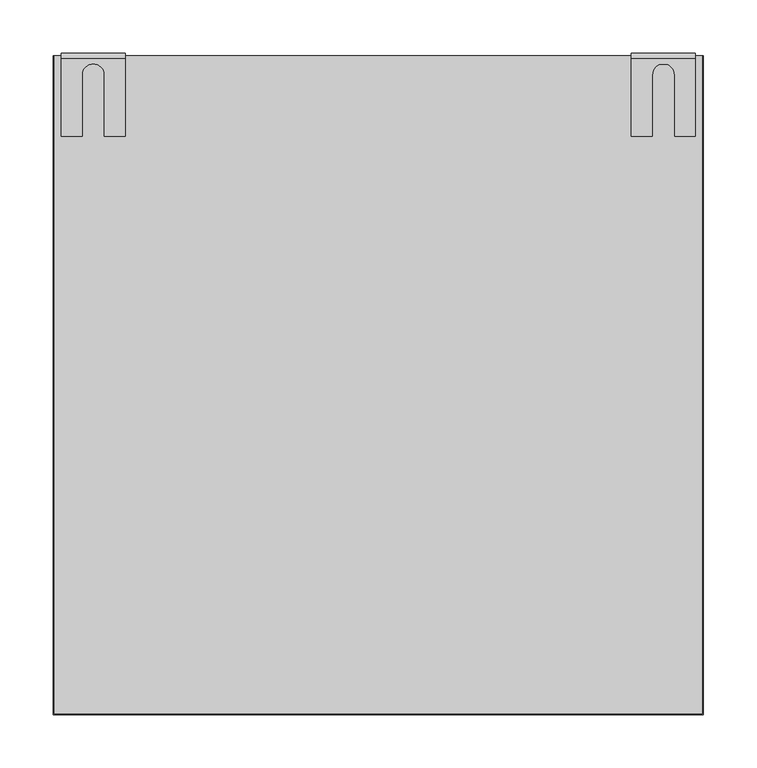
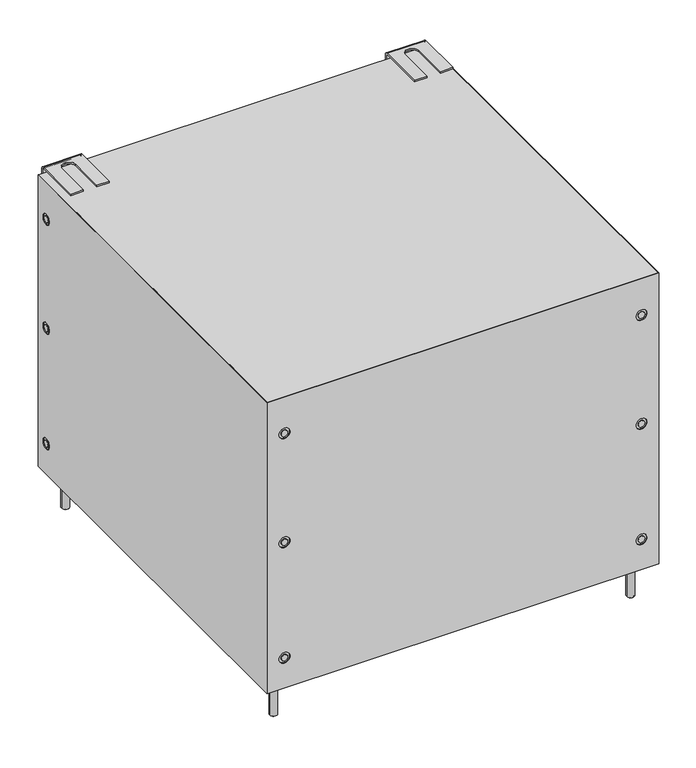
"""IFC4 building model written with IfcOpenShell, lengths in millimetres: proxy geometry, 11318830_D_APCL011_SST : 59590013_D_11318830_APCL011_SST."""

from ifc_helpers import new_model, si_unit, point, frame, frame_2d, origin, origin_with_axes, place, context, project, spatial, polyline, circle_curve, trimmed, segment, composite_curve, outline, extrude, faceted_brep, source, transform, mapped, element, save
from ifc_brep_helpers import plane_surface, cylinder_surface, revolved_surface, advanced_brep


def specialty_equipment_1de81694(model_context):
    return source(origin(), model_context, "Body", "SolidModel", [
        extrude(outline(composite_curve([segment(polyline([(-281.1685084, 596.0472117), (-277.3164745, 596.0472117), (-275.4477356, 595.7512326)]), True, "CONTINUOUS"), segment(trimmed(circle_curve(frame_2d((-276.4186229, 593.5839462)), 2.3748163), [point((-275.4477356, 595.7512326))], [point((-275.2989184, 591.4896648))], False, "CARTESIAN"), True, "CONTINUOUS"), segment(trimmed(circle_curve(frame_2d((-276.4582963, 588.9114122)), 2.8269318), [point((-275.2989184, 591.4896648))], [point((-275.7642408, 586.1710052))], False, "CARTESIAN"), True, "CONTINUOUS"), segment(polyline([(-275.7642408, 586.1710052), (-277.2676416, 586.0), (-281.1685084, 586.0), (-281.1685084, 596.0472117)]), True, "CONTINUOUS")], self_intersect=False), holes=[composite_curve([segment(polyline([(-279.913848, 594.7943432), (-279.913848, 591.9670675), (-277.6145851, 591.9670675), (-276.2782884, 592.0839783)]), True, "CONTINUOUS"), segment(trimmed(circle_curve(frame_2d((-276.5352206, 593.3816276)), 1.3228409), [point((-276.2782884, 592.0839783))], [point((-276.1776634, 594.6552291))], True, "CARTESIAN"), True, "CONTINUOUS"), segment(polyline([(-276.1776634, 594.6552291), (-277.7677441, 594.7943432), (-279.913848, 594.7943432)]), True, "CONTINUOUS")], self_intersect=False), composite_curve([segment(polyline([(-277.4580113, 590.7090207), (-279.9143742, 590.7090207), (-279.9143742, 587.2568535), (-277.3578582, 587.2568535), (-276.4244031, 587.3057738)]), True, "CONTINUOUS"), segment(trimmed(circle_curve(frame_2d((-276.5121799, 588.980655)), 1.6771797), [point((-276.4244031, 587.3057738))], [point((-275.9111324, 590.5464372))], True, "CARTESIAN"), True, "CONTINUOUS"), segment(polyline([(-275.9111324, 590.5464372), (-277.4580113, 590.7090207)]), True, "CONTINUOUS")], self_intersect=False)]), frame((0.0, 0.0, -61.0), z_axis=(0.0, 0.0, 1.0), x_axis=(1.0, 0.0, 0.0)), (0.0, 0.0, 1.0), 1.0),
        extrude(outline(composite_curve([segment(polyline([(278.1415369, 35.0472117), (280.0102757, 34.7512326)]), True, "CONTINUOUS"), segment(trimmed(circle_curve(frame_2d((279.0393885, 32.5839462)), 2.3748163), [point((280.0102757, 34.7512326))], [point((280.1590929, 30.4896648))], False, "CARTESIAN"), True, "CONTINUOUS"), segment(trimmed(circle_curve(frame_2d((278.999715, 27.9114122)), 2.8269318), [point((280.1590929, 30.4896648))], [point((279.6937705, 25.1710052))], False, "CARTESIAN"), True, "CONTINUOUS"), segment(polyline([(279.6937705, 25.1710052), (278.1903698, 25.0), (274.2895029, 25.0), (274.2895029, 35.0472117), (278.1415369, 35.0472117)]), True, "CONTINUOUS")], self_intersect=False), holes=[composite_curve([segment(polyline([(275.5441634, 30.9670675), (277.8434263, 30.9670675), (279.1797229, 31.0839783)]), True, "CONTINUOUS"), segment(trimmed(circle_curve(frame_2d((278.9227908, 32.3816276)), 1.3228409), [point((279.1797229, 31.0839783))], [point((279.2803479, 33.6552291))], True, "CARTESIAN"), True, "CONTINUOUS"), segment(polyline([(279.2803479, 33.6552291), (277.6902672, 33.7943432), (275.5441634, 33.7943432), (275.5441634, 30.9670675)]), True, "CONTINUOUS")], self_intersect=False), composite_curve([segment(polyline([(275.5436371, 29.7090207), (275.5436371, 26.2568535), (278.1001532, 26.2568535), (279.0336083, 26.3057738)]), True, "CONTINUOUS"), segment(trimmed(circle_curve(frame_2d((278.9458315, 27.980655)), 1.6771797), [point((279.0336083, 26.3057738))], [point((279.5468789, 29.5464372))], True, "CARTESIAN"), True, "CONTINUOUS"), segment(polyline([(279.5468789, 29.5464372), (278.0, 29.7090207), (275.5436371, 29.7090207)]), True, "CONTINUOUS")], self_intersect=False)]), frame((0.0, 0.0, -61.0), z_axis=(0.0, 0.0, 1.0), x_axis=(1.0, 0.0, 0.0)), (0.0, 0.0, 1.0), 1.0),
        extrude(outline(composite_curve([segment(polyline([(278.1415369, 596.0472117), (280.0102757, 595.7512326)]), True, "CONTINUOUS"), segment(trimmed(circle_curve(frame_2d((279.0393885, 593.5839462)), 2.3748163), [point((280.0102757, 595.7512326))], [point((280.1590929, 591.4896648))], False, "CARTESIAN"), True, "CONTINUOUS"), segment(trimmed(circle_curve(frame_2d((278.999715, 588.9114122)), 2.8269318), [point((280.1590929, 591.4896648))], [point((279.6937705, 586.1710052))], False, "CARTESIAN"), True, "CONTINUOUS"), segment(polyline([(279.6937705, 586.1710052), (278.1903698, 586.0), (274.2895029, 586.0), (274.2895029, 596.0472117), (278.1415369, 596.0472117)]), True, "CONTINUOUS")], self_intersect=False), holes=[composite_curve([segment(polyline([(279.2803479, 594.6552291), (277.6902672, 594.7943432), (275.5441634, 594.7943432), (275.5441634, 591.9670675), (277.8434263, 591.9670675), (279.1797229, 592.0839783)]), True, "CONTINUOUS"), segment(trimmed(circle_curve(frame_2d((278.9227908, 593.3816276)), 1.3228409), [point((279.1797229, 592.0839783))], [point((279.2803479, 594.6552291))], True, "CARTESIAN"), True, "CONTINUOUS")], self_intersect=False), composite_curve([segment(polyline([(278.0, 590.7090207), (275.5436371, 590.7090207), (275.5436371, 587.2568535), (278.1001532, 587.2568535), (279.0336083, 587.3057738)]), True, "CONTINUOUS"), segment(trimmed(circle_curve(frame_2d((278.9458315, 588.980655)), 1.6771797), [point((279.0336083, 587.3057738))], [point((279.5468789, 590.5464372))], True, "CARTESIAN"), True, "CONTINUOUS"), segment(polyline([(279.5468789, 590.5464372), (278.0, 590.7090207)]), True, "CONTINUOUS")], self_intersect=False)]), frame((0.0, 0.0, -61.0), z_axis=(0.0, 0.0, 1.0), x_axis=(1.0, 0.0, 0.0)), (0.0, 0.0, 1.0), 1.0),
        extrude(outline(composite_curve([segment(polyline([(-277.4419527, 35.0472117), (-275.5732138, 34.7512326)]), True, "CONTINUOUS"), segment(trimmed(circle_curve(frame_2d((-276.544101, 32.5839462)), 2.3748163), [point((-275.5732138, 34.7512326))], [point((-275.4243966, 30.4896648))], False, "CARTESIAN"), True, "CONTINUOUS"), segment(trimmed(circle_curve(frame_2d((-276.5837745, 27.9114122)), 2.8269318), [point((-275.4243966, 30.4896648))], [point((-275.889719, 25.1710052))], False, "CARTESIAN"), True, "CONTINUOUS"), segment(polyline([(-275.889719, 25.1710052), (-277.3931197, 25.0), (-281.2939866, 25.0), (-281.2939866, 35.0472117), (-277.4419527, 35.0472117)]), True, "CONTINUOUS")], self_intersect=False), holes=[composite_curve([segment(polyline([(-280.0393261, 33.7943432), (-280.0393261, 30.9670675), (-277.7400632, 30.9670675), (-276.4037666, 31.0839783)]), True, "CONTINUOUS"), segment(trimmed(circle_curve(frame_2d((-276.6606988, 32.3816276)), 1.3228409), [point((-276.4037666, 31.0839783))], [point((-276.3031416, 33.6552291))], True, "CARTESIAN"), True, "CONTINUOUS"), segment(polyline([(-276.3031416, 33.6552291), (-277.8932223, 33.7943432), (-280.0393261, 33.7943432)]), True, "CONTINUOUS")], self_intersect=False), composite_curve([segment(polyline([(-280.0398524, 26.2568535), (-277.4833364, 26.2568535), (-276.5498812, 26.3057738)]), True, "CONTINUOUS"), segment(trimmed(circle_curve(frame_2d((-276.637658, 27.980655)), 1.6771797), [point((-276.5498812, 26.3057738))], [point((-276.0366106, 29.5464372))], True, "CARTESIAN"), True, "CONTINUOUS"), segment(polyline([(-276.0366106, 29.5464372), (-277.5834895, 29.7090207), (-280.0398524, 29.7090207), (-280.0398524, 26.2568535)]), True, "CONTINUOUS")], self_intersect=False)]), frame((0.0, 0.0, -61.0), z_axis=(0.0, 0.0, 1.0), x_axis=(1.0, 0.0, 0.0)), (0.0, 0.0, 1.0), 1.0),
        extrude(outline(composite_curve([segment(trimmed(circle_curve(frame_2d((596.0, 240.0)), 5.0), [point((596.0, 235.0))], [point((596.0, 245.0))], False, "CARTESIAN"), True, "CONTINUOUS"), segment(trimmed(circle_curve(frame_2d((596.0, 240.0)), 5.0), [point((596.0, 245.0))], [point((596.0, 235.0))], False, "CARTESIAN"), True, "CONTINUOUS")], self_intersect=False)), frame((-305.0, 0.0, 0.0), z_axis=(1.0, 0.0, 0.0), x_axis=(0.0, 1.0, 0.0)), (0.0, 0.0, 1.0), 1.0),
        extrude(outline(composite_curve([segment(trimmed(circle_curve(frame_2d((596.0, 240.0)), 5.0), [point((596.0, 235.0))], [point((596.0, 245.0))], False, "CARTESIAN"), True, "CONTINUOUS"), segment(trimmed(circle_curve(frame_2d((596.0, 240.0)), 5.0), [point((596.0, 245.0))], [point((596.0, 235.0))], False, "CARTESIAN"), True, "CONTINUOUS")], self_intersect=False)), frame((304.0, 0.0, 0.0), z_axis=(1.0, 0.0, 0.0), x_axis=(0.0, 1.0, 0.0)), (0.0, 0.0, 1.0), 1.0),
        extrude(outline(composite_curve([segment(trimmed(circle_curve(frame_2d((240.0, -278.0)), 5.0), [point((240.0, -273.0))], [point((240.0, -283.0))], False, "CARTESIAN"), True, "CONTINUOUS"), segment(trimmed(circle_curve(frame_2d((240.0, -278.0)), 5.0), [point((240.0, -283.0))], [point((240.0, -273.0))], False, "CARTESIAN"), True, "CONTINUOUS")], self_intersect=False)), frame((0.0, 0.0, 0.0), z_axis=(0.0, 1.0, 0.0), x_axis=(0.0, 0.0, 1.0)), (0.0, 0.0, 1.0), 1.0),
        extrude(outline(composite_curve([segment(trimmed(circle_curve(frame_2d((240.0, 278.0)), 5.0), [point((240.0, 283.0))], [point((240.0, 273.0))], False, "CARTESIAN"), True, "CONTINUOUS"), segment(trimmed(circle_curve(frame_2d((240.0, 278.0)), 5.0), [point((240.0, 273.0))], [point((240.0, 283.0))], False, "CARTESIAN"), True, "CONTINUOUS")], self_intersect=False)), frame((0.0, 0.0, 0.0), z_axis=(0.0, 1.0, 0.0), x_axis=(0.0, 0.0, 1.0)), (0.0, 0.0, 1.0), 1.0),
        extrude(outline(composite_curve([segment(trimmed(circle_curve(frame_2d((596.0, 419.0)), 5.0), [point((596.0, 414.0))], [point((596.0, 424.0))], False, "CARTESIAN"), True, "CONTINUOUS"), segment(trimmed(circle_curve(frame_2d((596.0, 419.0)), 5.0), [point((596.0, 424.0))], [point((596.0, 414.0))], False, "CARTESIAN"), True, "CONTINUOUS")], self_intersect=False)), frame((-305.0, 0.0, 0.0), z_axis=(1.0, 0.0, 0.0), x_axis=(0.0, 1.0, 0.0)), (0.0, 0.0, 1.0), 1.0),
        extrude(outline(composite_curve([segment(trimmed(circle_curve(frame_2d((596.0, 419.0)), 5.0), [point((596.0, 414.0))], [point((596.0, 424.0))], False, "CARTESIAN"), True, "CONTINUOUS"), segment(trimmed(circle_curve(frame_2d((596.0, 419.0)), 5.0), [point((596.0, 424.0))], [point((596.0, 414.0))], False, "CARTESIAN"), True, "CONTINUOUS")], self_intersect=False)), frame((304.0, 0.0, 0.0), z_axis=(1.0, 0.0, 0.0), x_axis=(0.0, 1.0, 0.0)), (0.0, 0.0, 1.0), 1.0),
        extrude(outline(composite_curve([segment(trimmed(circle_curve(frame_2d((419.0, -278.0)), 5.0), [point((419.0, -273.0))], [point((419.0, -283.0))], False, "CARTESIAN"), True, "CONTINUOUS"), segment(trimmed(circle_curve(frame_2d((419.0, -278.0)), 5.0), [point((419.0, -283.0))], [point((419.0, -273.0))], False, "CARTESIAN"), True, "CONTINUOUS")], self_intersect=False)), frame((0.0, 0.0, 0.0), z_axis=(0.0, 1.0, 0.0), x_axis=(0.0, 0.0, 1.0)), (0.0, 0.0, 1.0), 1.0),
        extrude(outline(composite_curve([segment(trimmed(circle_curve(frame_2d((419.0, 278.0)), 5.0), [point((419.0, 283.0))], [point((419.0, 273.0))], False, "CARTESIAN"), True, "CONTINUOUS"), segment(trimmed(circle_curve(frame_2d((419.0, 278.0)), 5.0), [point((419.0, 273.0))], [point((419.0, 283.0))], False, "CARTESIAN"), True, "CONTINUOUS")], self_intersect=False)), frame((0.0, 0.0, 0.0), z_axis=(0.0, 1.0, 0.0), x_axis=(0.0, 0.0, 1.0)), (0.0, 0.0, 1.0), 1.0),
        extrude(outline(composite_curve([segment(trimmed(circle_curve(frame_2d((596.0, 50.0)), 5.0), [point((596.0, 45.0))], [point((596.0, 55.0))], False, "CARTESIAN"), True, "CONTINUOUS"), segment(trimmed(circle_curve(frame_2d((596.0, 50.0)), 5.0), [point((596.0, 55.0))], [point((596.0, 45.0))], False, "CARTESIAN"), True, "CONTINUOUS")], self_intersect=False)), frame((-305.0, 0.0, 0.0), z_axis=(1.0, 0.0, 0.0), x_axis=(0.0, 1.0, 0.0)), (0.0, 0.0, 1.0), 1.0),
        extrude(outline(composite_curve([segment(trimmed(circle_curve(frame_2d((596.0, 50.0)), 5.0), [point((596.0, 45.0))], [point((596.0, 55.0))], False, "CARTESIAN"), True, "CONTINUOUS"), segment(trimmed(circle_curve(frame_2d((596.0, 50.0)), 5.0), [point((596.0, 55.0))], [point((596.0, 45.0))], False, "CARTESIAN"), True, "CONTINUOUS")], self_intersect=False)), frame((304.0, 0.0, 0.0), z_axis=(1.0, 0.0, 0.0), x_axis=(0.0, 1.0, 0.0)), (0.0, 0.0, 1.0), 1.0),
        extrude(outline(composite_curve([segment(trimmed(circle_curve(frame_2d((50.0, -278.0)), 5.0), [point((50.0, -273.0))], [point((50.0, -283.0))], False, "CARTESIAN"), True, "CONTINUOUS"), segment(trimmed(circle_curve(frame_2d((50.0, -278.0)), 5.0), [point((50.0, -283.0))], [point((50.0, -273.0))], False, "CARTESIAN"), True, "CONTINUOUS")], self_intersect=False)), frame((0.0, 0.0, 0.0), z_axis=(0.0, 1.0, 0.0), x_axis=(0.0, 0.0, 1.0)), (0.0, 0.0, 1.0), 1.0),
        extrude(outline(composite_curve([segment(trimmed(circle_curve(frame_2d((50.0, 278.0)), 5.0), [point((50.0, 283.0))], [point((50.0, 273.0))], False, "CARTESIAN"), True, "CONTINUOUS"), segment(trimmed(circle_curve(frame_2d((50.0, 278.0)), 5.0), [point((50.0, 273.0))], [point((50.0, 283.0))], False, "CARTESIAN"), True, "CONTINUOUS")], self_intersect=False)), frame((0.0, 0.0, 0.0), z_axis=(0.0, 1.0, 0.0), x_axis=(0.0, 0.0, 1.0)), (0.0, 0.0, 1.0), 1.0),
        faceted_brep([(304.0, 618.0, 479.0), (-304.0, 618.0, 479.0), (-304.0, 1.0, 479.0), (304.0, 1.0, 479.0), (304.0, 618.0, 434.0), (304.0, 1.0, 434.0), (-304.0, 1.0, 434.0), (-304.0, 618.0, 434.0), (302.0, 616.0, 434.0), (-302.0, 616.0, 434.0), (-302.0, 3.0, 434.0), (302.0, 3.0, 434.0), (302.0, 616.0, 477.0), (302.0, 3.0, 477.0), (-302.0, 3.0, 477.0), (-302.0, 616.0, 477.0)], [[[0, 1, 2, 3]], [[4, 5, 6, 7], [8, 9, 10, 11]], [[1, 0, 4, 7]], [[2, 1, 7, 6]], [[3, 2, 6, 5]], [[0, 3, 5, 4]], [[12, 13, 14, 15]], [[12, 15, 9, 8]], [[15, 14, 10, 9]], [[14, 13, 11, 10]], [[13, 12, 8, 11]]]),
        advanced_brep(
        [(-305.0, 618.0, 479.0), (-305.0, 0.0, 479.0), (305.0, 0.0, 479.0), (305.0, 618.0, 479.0), (304.0, 618.0, 479.0), (304.0, 1.0, 479.0), (-304.0, 1.0, 479.0), (-304.0, 618.0, 479.0), (305.0, 618.0, 0.0), (305.0, 0.0, 0.0), (-305.0, 0.0, 0.0), (-305.0, 618.0, 0.0), (-304.0, 618.0, 0.0), (-304.0, 1.0, 0.0), (304.0, 1.0, 0.0), (304.0, 618.0, 0.0), (-305.0, 596.0, 41.5), (-305.0, 596.0, 58.5), (-305.0, 596.0, 410.5), (-305.0, 596.0, 427.5), (-305.0, 596.0, 231.5), (-305.0, 596.0, 248.5), (-269.5, 0.0, 419.0), (-286.5, 0.0, 419.0), (286.5, 0.0, 419.0), (269.5, 0.0, 419.0), (-269.5, 0.0, 240.0), (-286.5, 0.0, 240.0), (286.5, 0.0, 240.0), (269.5, 0.0, 240.0), (-269.5, 0.0, 50.0), (-286.5, 0.0, 50.0), (286.5, 0.0, 50.0), (269.5, 0.0, 50.0), (305.0, 596.0, 427.5), (305.0, 596.0, 410.5), (305.0, 596.0, 248.5), (305.0, 596.0, 231.5), (305.0, 596.0, 58.5), (305.0, 596.0, 41.5), (-304.0, 596.0, 58.5), (-304.0, 596.0, 41.5), (-304.0, 596.0, 427.5), (-304.0, 596.0, 410.5), (-304.0, 596.0, 248.5), (-304.0, 596.0, 231.5), (-286.5, 1.0, 419.0), (-269.5, 1.0, 419.0), (269.5, 1.0, 419.0), (286.5, 1.0, 419.0), (-286.5, 1.0, 240.0), (-269.5, 1.0, 240.0), (269.5, 1.0, 240.0), (286.5, 1.0, 240.0), (-286.5, 1.0, 50.0), (-269.5, 1.0, 50.0), (269.5, 1.0, 50.0), (286.5, 1.0, 50.0), (304.0, 596.0, 410.5), (304.0, 596.0, 427.5), (304.0, 596.0, 231.5), (304.0, 596.0, 248.5), (304.0, 596.0, 41.5), (304.0, 596.0, 58.5)],
        [
            (0, 1),
            (1, 2),
            (2, 3),
            (3, 4),
            (4, 5),
            (5, 6),
            (6, 7),
            (7, 0),
            (8, 9),
            (9, 10),
            (10, 11),
            (11, 12),
            (12, 13),
            (13, 14),
            (14, 15),
            (15, 8),
            (3, 8),
            (15, 4),
            (11, 0),
            (7, 12),
            (10, 1),
            (16, 17, circle_curve(frame((-305.0, 596.0, 50.0), z_axis=(1.0, 0.0, 0.0), x_axis=(0.0, 0.0, 1.0)), 8.5)),
            (17, 16, circle_curve(frame((-305.0, 596.0, 50.0), z_axis=(1.0, 0.0, 0.0), x_axis=(0.0, 0.0, 1.0)), 8.5)),
            (18, 19, circle_curve(frame((-305.0, 596.0, 419.0), z_axis=(1.0, 0.0, 0.0), x_axis=(0.0, 0.0, 1.0)), 8.5)),
            (19, 18, circle_curve(frame((-305.0, 596.0, 419.0), z_axis=(1.0, 0.0, 0.0), x_axis=(0.0, 0.0, 1.0)), 8.5)),
            (20, 21, circle_curve(frame((-305.0, 596.0, 240.0), z_axis=(1.0, 0.0, 0.0), x_axis=(0.0, 0.0, 1.0)), 8.5)),
            (21, 20, circle_curve(frame((-305.0, 596.0, 240.0), z_axis=(1.0, 0.0, 0.0), x_axis=(0.0, 0.0, 1.0)), 8.5)),
            (9, 2),
            (22, 23, circle_curve(frame((-278.0, 0.0, 419.0), z_axis=(0.0, 1.0, 0.0), x_axis=(-1.0, 0.0, 0.0)), 8.5)),
            (23, 22, circle_curve(frame((-278.0, 0.0, 419.0), z_axis=(0.0, 1.0, 0.0), x_axis=(-1.0, 0.0, 0.0)), 8.5)),
            (24, 25, circle_curve(frame((278.0, 0.0, 419.0), z_axis=(0.0, 1.0, 0.0), x_axis=(-1.0, 0.0, 0.0)), 8.5)),
            (25, 24, circle_curve(frame((278.0, 0.0, 419.0), z_axis=(0.0, 1.0, 0.0), x_axis=(-1.0, 0.0, 0.0)), 8.5)),
            (26, 27, circle_curve(frame((-278.0, 0.0, 240.0), z_axis=(0.0, 1.0, 0.0), x_axis=(-1.0, 0.0, 0.0)), 8.5)),
            (27, 26, circle_curve(frame((-278.0, 0.0, 240.0), z_axis=(0.0, 1.0, 0.0), x_axis=(-1.0, 0.0, 0.0)), 8.5)),
            (28, 29, circle_curve(frame((278.0, 0.0, 240.0), z_axis=(0.0, 1.0, 0.0), x_axis=(-1.0, 0.0, 0.0)), 8.5)),
            (29, 28, circle_curve(frame((278.0, 0.0, 240.0), z_axis=(0.0, 1.0, 0.0), x_axis=(-1.0, 0.0, 0.0)), 8.5)),
            (30, 31, circle_curve(frame((-278.0, 0.0, 50.0), z_axis=(0.0, 1.0, 0.0), x_axis=(-1.0, 0.0, 0.0)), 8.5)),
            (31, 30, circle_curve(frame((-278.0, 0.0, 50.0), z_axis=(0.0, 1.0, 0.0), x_axis=(-1.0, 0.0, 0.0)), 8.5)),
            (32, 33, circle_curve(frame((278.0, 0.0, 50.0), z_axis=(0.0, 1.0, 0.0), x_axis=(-1.0, 0.0, 0.0)), 8.5)),
            (33, 32, circle_curve(frame((278.0, 0.0, 50.0), z_axis=(0.0, 1.0, 0.0), x_axis=(-1.0, 0.0, 0.0)), 8.5)),
            (34, 35, circle_curve(frame((305.0, 596.0, 419.0), z_axis=(-1.0, 0.0, 0.0), x_axis=(0.0, 0.0, 1.0)), 8.5)),
            (35, 34, circle_curve(frame((305.0, 596.0, 419.0), z_axis=(-1.0, 0.0, 0.0), x_axis=(0.0, 0.0, 1.0)), 8.5)),
            (36, 37, circle_curve(frame((305.0, 596.0, 240.0), z_axis=(-1.0, 0.0, 0.0), x_axis=(0.0, 0.0, 1.0)), 8.5)),
            (37, 36, circle_curve(frame((305.0, 596.0, 240.0), z_axis=(-1.0, 0.0, 0.0), x_axis=(0.0, 0.0, 1.0)), 8.5)),
            (38, 39, circle_curve(frame((305.0, 596.0, 50.0), z_axis=(-1.0, 0.0, 0.0), x_axis=(0.0, 0.0, 1.0)), 8.5)),
            (39, 38, circle_curve(frame((305.0, 596.0, 50.0), z_axis=(-1.0, 0.0, 0.0), x_axis=(0.0, 0.0, 1.0)), 8.5)),
            (6, 13),
            (40, 41, circle_curve(frame((-304.0, 596.0, 50.0), z_axis=(-1.0, 0.0, 0.0), x_axis=(0.0, 0.0, 1.0)), 8.5)),
            (41, 40, circle_curve(frame((-304.0, 596.0, 50.0), z_axis=(-1.0, 0.0, 0.0), x_axis=(0.0, 0.0, 1.0)), 8.5)),
            (42, 43, circle_curve(frame((-304.0, 596.0, 419.0), z_axis=(-1.0, 0.0, 0.0), x_axis=(0.0, 0.0, 1.0)), 8.5)),
            (43, 42, circle_curve(frame((-304.0, 596.0, 419.0), z_axis=(-1.0, 0.0, 0.0), x_axis=(0.0, 0.0, 1.0)), 8.5)),
            (44, 45, circle_curve(frame((-304.0, 596.0, 240.0), z_axis=(-1.0, 0.0, 0.0), x_axis=(0.0, 0.0, 1.0)), 8.5)),
            (45, 44, circle_curve(frame((-304.0, 596.0, 240.0), z_axis=(-1.0, 0.0, 0.0), x_axis=(0.0, 0.0, 1.0)), 8.5)),
            (5, 14),
            (46, 47, circle_curve(frame((-278.0, 1.0, 419.0), z_axis=(0.0, -1.0, 0.0), x_axis=(-1.0, 0.0, 0.0)), 8.5)),
            (47, 46, circle_curve(frame((-278.0, 1.0, 419.0), z_axis=(0.0, -1.0, 0.0), x_axis=(-1.0, 0.0, 0.0)), 8.5)),
            (48, 49, circle_curve(frame((278.0, 1.0, 419.0), z_axis=(0.0, -1.0, 0.0), x_axis=(-1.0, 0.0, 0.0)), 8.5)),
            (49, 48, circle_curve(frame((278.0, 1.0, 419.0), z_axis=(0.0, -1.0, 0.0), x_axis=(-1.0, 0.0, 0.0)), 8.5)),
            (50, 51, circle_curve(frame((-278.0, 1.0, 240.0), z_axis=(0.0, -1.0, 0.0), x_axis=(-1.0, 0.0, 0.0)), 8.5)),
            (51, 50, circle_curve(frame((-278.0, 1.0, 240.0), z_axis=(0.0, -1.0, 0.0), x_axis=(-1.0, 0.0, 0.0)), 8.5)),
            (52, 53, circle_curve(frame((278.0, 1.0, 240.0), z_axis=(0.0, -1.0, 0.0), x_axis=(-1.0, 0.0, 0.0)), 8.5)),
            (53, 52, circle_curve(frame((278.0, 1.0, 240.0), z_axis=(0.0, -1.0, 0.0), x_axis=(-1.0, 0.0, 0.0)), 8.5)),
            (54, 55, circle_curve(frame((-278.0, 1.0, 50.0), z_axis=(0.0, -1.0, 0.0), x_axis=(-1.0, 0.0, 0.0)), 8.5)),
            (55, 54, circle_curve(frame((-278.0, 1.0, 50.0), z_axis=(0.0, -1.0, 0.0), x_axis=(-1.0, 0.0, 0.0)), 8.5)),
            (56, 57, circle_curve(frame((278.0, 1.0, 50.0), z_axis=(0.0, -1.0, 0.0), x_axis=(-1.0, 0.0, 0.0)), 8.5)),
            (57, 56, circle_curve(frame((278.0, 1.0, 50.0), z_axis=(0.0, -1.0, 0.0), x_axis=(-1.0, 0.0, 0.0)), 8.5)),
            (58, 59, circle_curve(frame((304.0, 596.0, 419.0), z_axis=(1.0, 0.0, 0.0), x_axis=(0.0, 0.0, 1.0)), 8.5)),
            (59, 58, circle_curve(frame((304.0, 596.0, 419.0), z_axis=(1.0, 0.0, 0.0), x_axis=(0.0, 0.0, 1.0)), 8.5)),
            (60, 61, circle_curve(frame((304.0, 596.0, 240.0), z_axis=(1.0, 0.0, 0.0), x_axis=(0.0, 0.0, 1.0)), 8.5)),
            (61, 60, circle_curve(frame((304.0, 596.0, 240.0), z_axis=(1.0, 0.0, 0.0), x_axis=(0.0, 0.0, 1.0)), 8.5)),
            (62, 63, circle_curve(frame((304.0, 596.0, 50.0), z_axis=(1.0, 0.0, 0.0), x_axis=(0.0, 0.0, 1.0)), 8.5)),
            (63, 62, circle_curve(frame((304.0, 596.0, 50.0), z_axis=(1.0, 0.0, 0.0), x_axis=(0.0, 0.0, 1.0)), 8.5)),
            (46, 23),
            (22, 47),
            (48, 25),
            (24, 49),
            (50, 27),
            (26, 51),
            (52, 29),
            (28, 53),
            (34, 59),
            (58, 35),
            (36, 61),
            (60, 37),
            (40, 17),
            (16, 41),
            (42, 19),
            (18, 43),
            (54, 31),
            (30, 55),
            (56, 33),
            (32, 57),
            (38, 63),
            (62, 39),
            (44, 21),
            (20, 45),
        ],
        [
            plane_surface(frame((-305.0, 618.0, 479.0), z_axis=(0.0, 0.0, 1.0), x_axis=(-1.0, 0.0, 0.0))),
            plane_surface(frame((-305.0, 618.0, 0.0), z_axis=(0.0, 0.0, -1.0), x_axis=(1.0, 0.0, 0.0))),
            plane_surface(frame((305.0, 618.0, 479.0), z_axis=(0.0, 1.0, 0.0), x_axis=(0.0, 0.0, -1.0))),
            plane_surface(frame((-305.0, 618.0, 479.0), z_axis=(-1.0, 0.0, 0.0), x_axis=(0.0, 0.0, -1.0))),
            plane_surface(frame((-305.0, 0.0, 479.0), z_axis=(0.0, -1.0, 0.0), x_axis=(0.0, 0.0, -1.0))),
            plane_surface(frame((305.0, 0.0, 479.0), z_axis=(1.0, 0.0, 0.0), x_axis=(0.0, 0.0, -1.0))),
            plane_surface(frame((-304.0, 618.0, 479.0), z_axis=(1.0, 0.0, 0.0), x_axis=(0.0, 0.0, -1.0))),
            plane_surface(frame((-304.0, 1.0, 479.0), z_axis=(0.0, 1.0, 0.0), x_axis=(0.0, 0.0, -1.0))),
            plane_surface(frame((304.0, 1.0, 479.0), z_axis=(-1.0, 0.0, 0.0), x_axis=(0.0, 0.0, -1.0))),
            revolved_surface(polyline([(-286.5, 1.0, 419.0), (-286.5, 0.0, 419.0)]), (-278.0, 0.0, 419.0), (0.0, 1.0, 0.0)),
            revolved_surface(polyline([(269.5, 1.0, 419.0), (269.5, 0.0, 419.0)]), (278.0, 0.0, 419.0), (0.0, 1.0, 0.0)),
            revolved_surface(polyline([(-286.5, 1.0, 240.0), (-286.5, 0.0, 240.0)]), (-278.0, 0.0, 240.0), (0.0, 1.0, 0.0)),
            revolved_surface(polyline([(269.5, 1.0, 240.0), (269.5, 0.0, 240.0)]), (278.0, 0.0, 240.0), (0.0, 1.0, 0.0)),
            revolved_surface(polyline([(305.0, 596.0, 427.5), (304.0, 596.0, 427.5)]), (304.0, 596.0, 419.0), (1.0, 0.0, 0.0)),
            revolved_surface(polyline([(305.0, 596.0, 248.5), (304.0, 596.0, 248.5)]), (304.0, 596.0, 240.0), (1.0, 0.0, 0.0)),
            revolved_surface(polyline([(-304.0, 596.0, 58.5), (-305.0, 596.0, 58.5)]), (-305.0, 596.0, 50.0), (1.0, 0.0, 0.0)),
            revolved_surface(polyline([(-304.0, 596.0, 427.5), (-305.0, 596.0, 427.5)]), (-305.0, 596.0, 419.0), (1.0, 0.0, 0.0)),
            revolved_surface(polyline([(-286.5, 1.0, 50.0), (-286.5, 0.0, 50.0)]), (-278.0, 0.0, 50.0), (0.0, 1.0, 0.0)),
            revolved_surface(polyline([(269.5, 1.0, 50.0), (269.5, 0.0, 50.0)]), (278.0, 0.0, 50.0), (0.0, 1.0, 0.0)),
            revolved_surface(polyline([(305.0, 596.0, 58.5), (304.0, 596.0, 58.5)]), (304.0, 596.0, 50.0), (1.0, 0.0, 0.0)),
            revolved_surface(polyline([(-304.0, 596.0, 248.5), (-305.0, 596.0, 248.5)]), (-305.0, 596.0, 240.0), (1.0, 0.0, 0.0)),
        ],
        [
            (0, [[1, 2, 3, 4, 5, 6, 7, 8]]),
            (1, [[9, 10, 11, 12, 13, 14, 15, 16]]),
            (2, [[17, -16, 18, -4]]),
            (2, [[19, -8, 20, -12]]),
            (3, [[-1, -19, -11, 21], [22, 23], [24, 25], [26, 27]]),
            (4, [[-2, -21, -10, 28], [29, 30], [31, 32], [33, 34], [35, 36], [37, 38], [39, 40]]),
            (5, [[-3, -28, -9, -17], [41, 42], [43, 44], [45, 46]]),
            (6, [[47, -13, -20, -7], [48, 49], [50, 51], [52, 53]]),
            (7, [[-47, -6, 54, -14], [55, 56], [57, 58], [59, 60], [61, 62], [63, 64], [65, 66]]),
            (8, [[-54, -5, -18, -15], [67, 68], [69, 70], [71, 72]]),
            (9, [[73, -29, 74, -55]]),
            (9, [[-73, -56, -74, -30]]),
            (10, [[75, -31, 76, -57]]),
            (10, [[-75, -58, -76, -32]]),
            (11, [[77, -33, 78, -59]]),
            (11, [[-77, -60, -78, -34]]),
            (12, [[79, -35, 80, -61]]),
            (12, [[-79, -62, -80, -36]]),
            (13, [[81, -67, 82, -41]]),
            (13, [[-81, -42, -82, -68]]),
            (14, [[83, -69, 84, -43]]),
            (14, [[-83, -44, -84, -70]]),
            (15, [[85, -22, 86, -48]]),
            (15, [[-85, -49, -86, -23]]),
            (16, [[87, -24, 88, -50]]),
            (16, [[-87, -51, -88, -25]]),
            (17, [[89, -37, 90, -63]]),
            (17, [[-89, -64, -90, -38]]),
            (18, [[91, -39, 92, -65]]),
            (18, [[-91, -66, -92, -40]]),
            (19, [[93, -71, 94, -45]]),
            (19, [[-93, -46, -94, -72]]),
            (20, [[95, -26, 96, -52]]),
            (20, [[-95, -53, -96, -27]]),
        ],
    ),
        advanced_brep(
        [(297.5, 615.5, 490.5), (297.5, 542.5, 490.5), (297.5, 542.5, 488.0), (297.5, 615.5, 488.0), (297.5, 618.0, 485.5), (297.5, 618.0, 408.0), (297.5, 620.5, 408.0), (297.5, 620.5, 485.5), (237.5, 615.5, 490.5), (237.5, 620.5, 485.5), (237.5, 620.5, 408.0), (237.5, 618.0, 408.0), (237.5, 618.0, 485.5), (237.5, 615.5, 488.0), (237.5, 542.5, 488.0), (237.5, 542.5, 490.5), (257.0, 542.5, 490.5), (257.0, 600.0, 490.5), (278.0, 600.0, 490.5), (278.0, 542.5, 490.5), (278.0, 542.5, 488.0), (257.0, 542.5, 488.0), (278.0, 600.0, 488.0), (257.0, 600.0, 488.0), (267.5, 618.0, 466.5), (267.5, 618.0, 459.5), (267.5, 618.0, 424.5), (267.5, 618.0, 417.5), (255.0, 618.0, 456.0), (280.0, 618.0, 456.0), (280.0, 618.0, 431.0), (255.0, 618.0, 431.0), (267.5, 620.5, 459.5), (267.5, 620.5, 466.5), (267.5, 620.5, 417.5), (267.5, 620.5, 424.5), (280.0, 620.5, 456.0), (255.0, 620.5, 456.0), (255.0, 620.5, 431.0), (280.0, 620.5, 431.0)],
        [
            (0, 1),
            (1, 2),
            (2, 3),
            (3, 4, circle_curve(frame((297.5, 615.5, 485.5), z_axis=(-1.0, 0.0, 0.0), x_axis=(0.0, 1.0, 0.0)), 2.5)),
            (4, 5),
            (5, 6),
            (6, 7),
            (7, 0, circle_curve(frame((297.5, 615.5, 485.5), z_axis=(1.0, 0.0, 0.0), x_axis=(0.0, 1.0, 0.0)), 5.0)),
            (8, 9, circle_curve(frame((237.5, 615.5, 485.5), z_axis=(-1.0, 0.0, 0.0), x_axis=(0.0, 1.0, 0.0)), 5.0)),
            (9, 10),
            (10, 11),
            (11, 12),
            (12, 13, circle_curve(frame((237.5, 615.5, 485.5), z_axis=(1.0, 0.0, 0.0), x_axis=(0.0, 1.0, 0.0)), 2.5)),
            (13, 14),
            (14, 15),
            (15, 8),
            (0, 8),
            (15, 16),
            (16, 17),
            (17, 18, circle_curve(frame((267.5, 600.0, 490.5), z_axis=(0.0, 0.0, -1.0), x_axis=(0.0, 1.0, 0.0)), 10.5)),
            (18, 19),
            (19, 1),
            (19, 20),
            (20, 2),
            (14, 21),
            (21, 16),
            (20, 22),
            (22, 23, circle_curve(frame((267.5, 600.0, 488.0), z_axis=(0.0, 0.0, 1.0), x_axis=(0.0, 1.0, 0.0)), 10.5)),
            (23, 21),
            (13, 3),
            (4, 12),
            (11, 5),
            (24, 25, circle_curve(frame((267.5, 618.0, 463.0), z_axis=(0.0, 1.0, 0.0), x_axis=(0.0, 0.0, -1.0)), 3.5)),
            (25, 24, circle_curve(frame((267.5, 618.0, 463.0), z_axis=(0.0, 1.0, 0.0), x_axis=(0.0, 0.0, -1.0)), 3.5)),
            (26, 27, circle_curve(frame((267.5, 618.0, 421.0), z_axis=(0.0, 1.0, 0.0), x_axis=(0.0, 0.0, -1.0)), 3.5)),
            (27, 26, circle_curve(frame((267.5, 618.0, 421.0), z_axis=(0.0, 1.0, 0.0), x_axis=(0.0, 0.0, -1.0)), 3.5)),
            (28, 29),
            (29, 30),
            (30, 31),
            (31, 28),
            (10, 6),
            (9, 7),
            (32, 33, circle_curve(frame((267.5, 620.5, 463.0), z_axis=(0.0, -1.0, 0.0), x_axis=(0.0, 0.0, -1.0)), 3.5)),
            (33, 32, circle_curve(frame((267.5, 620.5, 463.0), z_axis=(0.0, -1.0, 0.0), x_axis=(0.0, 0.0, -1.0)), 3.5)),
            (34, 35, circle_curve(frame((267.5, 620.5, 421.0), z_axis=(0.0, -1.0, 0.0), x_axis=(0.0, 0.0, -1.0)), 3.5)),
            (35, 34, circle_curve(frame((267.5, 620.5, 421.0), z_axis=(0.0, -1.0, 0.0), x_axis=(0.0, 0.0, -1.0)), 3.5)),
            (36, 37),
            (37, 38),
            (38, 39),
            (39, 36),
            (18, 22),
            (17, 23),
            (24, 33),
            (32, 25),
            (26, 35),
            (34, 27),
            (28, 37),
            (36, 29),
            (39, 30),
            (38, 31),
        ],
        [
            plane_surface(frame((297.5, 542.5, 490.5), z_axis=(1.0, 0.0, 0.0), x_axis=(0.0, -1.0, 0.0))),
            plane_surface(frame((237.5, 542.5, 490.5), z_axis=(-1.0, 0.0, 0.0), x_axis=(0.0, 1.0, 0.0))),
            plane_surface(frame((297.5, 615.5, 490.5), z_axis=(0.0, 0.0, 1.0), x_axis=(-1.0, 0.0, 0.0))),
            plane_surface(frame((297.5, 542.5, 490.5), z_axis=(0.0, -1.0, 0.0), x_axis=(-1.0, 0.0, 0.0))),
            plane_surface(frame((297.5, 542.5, 488.0), z_axis=(0.0, 0.0, -1.0), x_axis=(-1.0, 0.0, 0.0))),
            plane_surface(frame((297.5, 618.0, 485.5), z_axis=(0.0, -1.0, 0.0), x_axis=(-1.0, 0.0, 0.0))),
            plane_surface(frame((297.5, 618.0, 408.0), z_axis=(0.0, 0.0, -1.0), x_axis=(-1.0, 0.0, 0.0))),
            plane_surface(frame((297.5, 620.5, 408.0), z_axis=(0.0, 1.0, 0.0), x_axis=(-1.0, 0.0, 0.0))),
            plane_surface(frame((278.0, 542.5, 490.5), z_axis=(-1.0, 0.0, 0.0), x_axis=(0.0, 0.0, -1.0))),
            revolved_surface(polyline([(267.5, 610.5, 490.5), (267.5, 610.5, 488.0)]), (267.5, 600.0, 479.0), (0.0, 0.0, 1.0)),
            plane_surface(frame((257.0, 600.0, 490.5), z_axis=(1.0, 0.0, 0.0), x_axis=(0.0, 0.0, -1.0))),
            revolved_surface(polyline([(267.5, 620.5, 459.5), (267.5, 618.0, 459.5)]), (267.5, 612.795944, 463.0), (0.0, 1.0, 0.0)),
            revolved_surface(polyline([(267.5, 620.5, 417.5), (267.5, 618.0, 417.5)]), (267.5, 620.5, 421.0), (0.0, 1.0, 0.0)),
            plane_surface(frame((255.0, 620.5, 456.0), z_axis=(0.0, 0.0, -1.0), x_axis=(0.0, -1.0, 0.0))),
            plane_surface(frame((280.0, 620.5, 456.0), z_axis=(-1.0, 0.0, 0.0), x_axis=(0.0, -1.0, 0.0))),
            plane_surface(frame((280.0, 620.5, 431.0), z_axis=(0.0, 0.0, 1.0), x_axis=(0.0, -1.0, 0.0))),
            plane_surface(frame((255.0, 620.5, 431.0), z_axis=(1.0, 0.0, 0.0), x_axis=(0.0, -1.0, 0.0))),
            revolved_surface(polyline([(237.5, 618.0, 485.5), (297.5, 618.0, 485.5)]), (237.5, 615.5, 485.5), (-1.0, 0.0, 0.0)),
            cylinder_surface(frame((237.5, 615.5, 485.5), z_axis=(1.0, 0.0, 0.0), x_axis=(0.0, 1.0, 0.0)), 5.0),
        ],
        [
            (0, [[1, 2, 3, 4, 5, 6, 7, 8]]),
            (1, [[9, 10, 11, 12, 13, 14, 15, 16]]),
            (2, [[-1, 17, -16, 18, 19, 20, 21, 22]]),
            (3, [[-2, -22, 23, 24]]),
            (3, [[-15, 25, 26, -18]]),
            (4, [[-3, -24, 27, 28, 29, -25, -14, 30]]),
            (5, [[-5, 31, -12, 32], [33, 34], [35, 36], [37, 38, 39, 40]]),
            (6, [[-6, -32, -11, 41]]),
            (7, [[-7, -41, -10, 42], [43, 44], [45, 46], [47, 48, 49, 50]]),
            (8, [[51, -27, -23, -21]]),
            (9, [[-51, -20, 52, -28]]),
            (10, [[-52, -19, -26, -29]]),
            (11, [[53, -43, 54, -33]]),
            (11, [[-53, -34, -54, -44]]),
            (12, [[55, -45, 56, -35]]),
            (12, [[-55, -36, -56, -46]]),
            (13, [[57, -47, 58, -37]]),
            (14, [[-58, -50, 59, -38]]),
            (15, [[-59, -49, 60, -39]]),
            (16, [[-57, -40, -60, -48]]),
            (17, [[-4, -30, -13, -31]]),
            (18, [[-8, -42, -9, -17]]),
        ],
    ),
        advanced_brep(
        [(-237.5, 620.5, 485.5), (-237.5, 615.5, 490.5), (-237.5, 542.5, 490.5), (-237.5, 542.5, 488.0), (-237.5, 615.5, 488.0), (-237.5, 618.0, 485.5), (-237.5, 618.0, 408.0), (-237.5, 620.5, 408.0), (-297.5, 620.5, 485.5), (-297.5, 620.5, 408.0), (-297.5, 618.0, 408.0), (-297.5, 618.0, 485.5), (-297.5, 615.5, 488.0), (-297.5, 542.5, 488.0), (-297.5, 542.5, 490.5), (-297.5, 615.5, 490.5), (-278.0, 542.5, 490.5), (-278.0, 600.0, 490.5), (-267.5, 610.5, 490.5), (-257.0, 600.0, 490.5), (-257.0, 542.5, 490.5), (-257.0, 542.5, 488.0), (-278.0, 542.5, 488.0), (-257.0, 600.0, 488.0), (-267.5, 610.5, 488.0), (-278.0, 600.0, 488.0), (-255.0, 618.0, 456.0), (-255.0, 618.0, 431.0), (-280.0, 618.0, 431.0), (-280.0, 618.0, 456.0), (-267.5, 618.0, 424.5), (-267.5, 618.0, 417.5), (-267.5, 618.0, 466.5), (-267.5, 618.0, 459.5), (-255.0, 620.5, 431.0), (-255.0, 620.5, 456.0), (-280.0, 620.5, 456.0), (-280.0, 620.5, 431.0), (-267.5, 620.5, 417.5), (-267.5, 620.5, 424.5), (-267.5, 620.5, 459.5), (-267.5, 620.5, 466.5)],
        [
            (0, 1, circle_curve(frame((-237.5, 615.5, 485.5), z_axis=(1.0, 0.0, 0.0), x_axis=(0.0, 1.0, 0.0)), 5.0)),
            (1, 2),
            (2, 3),
            (3, 4),
            (4, 5, circle_curve(frame((-237.5, 615.5, 485.5), z_axis=(-1.0, 0.0, 0.0), x_axis=(0.0, 1.0, 0.0)), 2.5)),
            (5, 6),
            (6, 7),
            (7, 0),
            (8, 9),
            (9, 10),
            (10, 11),
            (11, 12, circle_curve(frame((-297.5, 615.5, 485.5), z_axis=(1.0, 0.0, 0.0), x_axis=(0.0, 1.0, 0.0)), 2.5)),
            (12, 13),
            (13, 14),
            (14, 15),
            (15, 8, circle_curve(frame((-297.5, 615.5, 485.5), z_axis=(-1.0, 0.0, 0.0), x_axis=(0.0, 1.0, 0.0)), 5.0)),
            (1, 15),
            (14, 16),
            (16, 17),
            (17, 18, circle_curve(frame((-267.5, 600.0, 490.5), z_axis=(0.0, 0.0, -1.0), x_axis=(0.0, -1.0, 0.0)), 10.5)),
            (18, 19, circle_curve(frame((-267.5, 600.0, 490.5), z_axis=(0.0, 0.0, -1.0), x_axis=(0.0, -1.0, 0.0)), 10.5)),
            (19, 20),
            (20, 2),
            (20, 21),
            (21, 3),
            (13, 22),
            (22, 16),
            (21, 23),
            (23, 24, circle_curve(frame((-267.5, 600.0, 488.0), z_axis=(0.0, 0.0, 1.0), x_axis=(0.0, -1.0, 0.0)), 10.5)),
            (24, 25, circle_curve(frame((-267.5, 600.0, 488.0), z_axis=(0.0, 0.0, 1.0), x_axis=(0.0, -1.0, 0.0)), 10.5)),
            (25, 22),
            (12, 4),
            (5, 11),
            (10, 6),
            (26, 27),
            (27, 28),
            (28, 29),
            (29, 26),
            (30, 31, circle_curve(frame((-267.5, 618.0, 421.0), z_axis=(0.0, 1.0, 0.0), x_axis=(0.0, 0.0, -1.0)), 3.5)),
            (31, 30, circle_curve(frame((-267.5, 618.0, 421.0), z_axis=(0.0, 1.0, 0.0), x_axis=(0.0, 0.0, -1.0)), 3.5)),
            (32, 33, circle_curve(frame((-267.5, 618.0, 463.0), z_axis=(0.0, 1.0, 0.0), x_axis=(0.0, 0.0, -1.0)), 3.5)),
            (33, 32, circle_curve(frame((-267.5, 618.0, 463.0), z_axis=(0.0, 1.0, 0.0), x_axis=(0.0, 0.0, -1.0)), 3.5)),
            (9, 7),
            (8, 0),
            (34, 35),
            (35, 36),
            (36, 37),
            (37, 34),
            (38, 39, circle_curve(frame((-267.5, 620.5, 421.0), z_axis=(0.0, -1.0, 0.0), x_axis=(0.0, 0.0, -1.0)), 3.5)),
            (39, 38, circle_curve(frame((-267.5, 620.5, 421.0), z_axis=(0.0, -1.0, 0.0), x_axis=(0.0, 0.0, -1.0)), 3.5)),
            (40, 41, circle_curve(frame((-267.5, 620.5, 463.0), z_axis=(0.0, -1.0, 0.0), x_axis=(0.0, 0.0, -1.0)), 3.5)),
            (41, 40, circle_curve(frame((-267.5, 620.5, 463.0), z_axis=(0.0, -1.0, 0.0), x_axis=(0.0, 0.0, -1.0)), 3.5)),
            (24, 18),
            (17, 25),
            (19, 23),
            (26, 35),
            (34, 27),
            (37, 28),
            (36, 29),
            (30, 39),
            (38, 31),
            (32, 41),
            (40, 33),
        ],
        [
            plane_surface(frame((-237.5, 620.5, 485.5), z_axis=(1.0, 0.0, 0.0), x_axis=(0.0, 0.0, 1.0))),
            plane_surface(frame((-297.5, 620.5, 485.5), z_axis=(-1.0, 0.0, 0.0), x_axis=(0.0, 0.0, -1.0))),
            plane_surface(frame((-237.5, 615.5, 490.5), z_axis=(0.0, 0.0, 1.0), x_axis=(-1.0, 0.0, 0.0))),
            plane_surface(frame((-237.5, 542.5, 490.5), z_axis=(0.0, -1.0, 0.0), x_axis=(-1.0, 0.0, 0.0))),
            plane_surface(frame((-237.5, 542.5, 488.0), z_axis=(0.0, 0.0, -1.0), x_axis=(-1.0, 0.0, 0.0))),
            plane_surface(frame((-237.5, 618.0, 485.5), z_axis=(0.0, -1.0, 0.0), x_axis=(-1.0, 0.0, 0.0))),
            plane_surface(frame((-237.5, 618.0, 408.0), z_axis=(0.0, 0.0, -1.0), x_axis=(-1.0, 0.0, 0.0))),
            plane_surface(frame((-237.5, 620.5, 408.0), z_axis=(0.0, 1.0, 0.0), x_axis=(-1.0, 0.0, 0.0))),
            revolved_surface(polyline([(-267.5, 589.5, 490.5), (-267.5, 589.5, 488.0)]), (-267.5, 600.0, 479.0), (0.0, 0.0, 1.0)),
            plane_surface(frame((-278.0, 600.0, 490.5), z_axis=(1.0, 0.0, 0.0), x_axis=(0.0, 0.0, -1.0))),
            plane_surface(frame((-257.0, 542.5, 490.5), z_axis=(-1.0, 0.0, 0.0), x_axis=(0.0, 0.0, -1.0))),
            cylinder_surface(frame((-297.5, 615.5, 485.5), z_axis=(1.0, 0.0, 0.0), x_axis=(0.0, 1.0, 0.0)), 5.0),
            revolved_surface(polyline([(-297.5, 618.0, 485.5), (-237.5, 618.0, 485.5)]), (-297.5, 615.5, 485.5), (-1.0, 0.0, 0.0)),
            plane_surface(frame((-255.0, 620.5, 456.0), z_axis=(-1.0, 0.0, 0.0), x_axis=(0.0, -1.0, 0.0))),
            plane_surface(frame((-255.0, 620.5, 431.0), z_axis=(0.0, 0.0, 1.0), x_axis=(0.0, -1.0, 0.0))),
            plane_surface(frame((-280.0, 620.5, 431.0), z_axis=(1.0, 0.0, 0.0), x_axis=(0.0, -1.0, 0.0))),
            plane_surface(frame((-280.0, 620.5, 456.0), z_axis=(0.0, 0.0, -1.0), x_axis=(0.0, -1.0, 0.0))),
            revolved_surface(polyline([(-267.5, 620.5, 417.5), (-267.5, 618.0, 417.5)]), (-267.5, 620.5, 421.0), (0.0, 1.0, 0.0)),
            revolved_surface(polyline([(-267.5, 620.5, 459.5), (-267.5, 618.0, 459.5)]), (-267.5, 620.5, 463.0), (0.0, 1.0, 0.0)),
        ],
        [
            (0, [[1, 2, 3, 4, 5, 6, 7, 8]]),
            (1, [[9, 10, 11, 12, 13, 14, 15, 16]]),
            (2, [[-2, 17, -15, 18, 19, 20, 21, 22, 23]]),
            (3, [[-3, -23, 24, 25]]),
            (3, [[-14, 26, 27, -18]]),
            (4, [[-4, -25, 28, 29, 30, 31, -26, -13, 32]]),
            (5, [[-6, 33, -11, 34], [35, 36, 37, 38], [39, 40], [41, 42]]),
            (6, [[-7, -34, -10, 43]]),
            (7, [[-8, -43, -9, 44], [45, 46, 47, 48], [49, 50], [51, 52]]),
            (8, [[53, -20, 54, -30]]),
            (9, [[-54, -19, -27, -31]]),
            (10, [[55, -28, -24, -22]]),
            (8, [[-53, -29, -55, -21]]),
            (11, [[-1, -44, -16, -17]]),
            (12, [[-5, -32, -12, -33]]),
            (13, [[56, -45, 57, -35]]),
            (14, [[-57, -48, 58, -36]]),
            (15, [[-58, -47, 59, -37]]),
            (16, [[-56, -38, -59, -46]]),
            (17, [[60, -49, 61, -39]]),
            (17, [[-60, -40, -61, -50]]),
            (18, [[62, -51, 63, -41]]),
            (18, [[-62, -42, -63, -52]]),
        ],
    ),
        extrude(outline(composite_curve([segment(trimmed(circle_curve(frame_2d((-278.0, 591.0)), 6.0), [point((-272.0, 591.0))], [point((-284.0, 591.0))], False, "CARTESIAN"), True, "CONTINUOUS"), segment(trimmed(circle_curve(frame_2d((-278.0, 591.0)), 6.0), [point((-284.0, 591.0))], [point((-272.0, 591.0))], False, "CARTESIAN"), True, "CONTINUOUS")], self_intersect=False)), frame((0.0, 0.0, -60.0), z_axis=(0.0, 0.0, 1.0), x_axis=(1.0, 0.0, 0.0)), (0.0, 0.0, 1.0), 60.0),
        extrude(outline(composite_curve([segment(trimmed(circle_curve(frame_2d((-278.0, 30.0)), 6.0), [point((-272.0, 30.0))], [point((-284.0, 30.0))], False, "CARTESIAN"), True, "CONTINUOUS"), segment(trimmed(circle_curve(frame_2d((-278.0, 30.0)), 6.0), [point((-284.0, 30.0))], [point((-272.0, 30.0))], False, "CARTESIAN"), True, "CONTINUOUS")], self_intersect=False)), frame((0.0, 0.0, -60.0), z_axis=(0.0, 0.0, 1.0), x_axis=(1.0, 0.0, 0.0)), (0.0, 0.0, 1.0), 60.0),
        extrude(outline(composite_curve([segment(trimmed(circle_curve(frame_2d((278.0, 30.0)), 6.0), [point((284.0, 30.0))], [point((272.0, 30.0))], False, "CARTESIAN"), True, "CONTINUOUS"), segment(trimmed(circle_curve(frame_2d((278.0, 30.0)), 6.0), [point((272.0, 30.0))], [point((284.0, 30.0))], False, "CARTESIAN"), True, "CONTINUOUS")], self_intersect=False)), frame((0.0, 0.0, -60.0), z_axis=(0.0, 0.0, 1.0), x_axis=(1.0, 0.0, 0.0)), (0.0, 0.0, 1.0), 60.0),
        extrude(outline(composite_curve([segment(trimmed(circle_curve(frame_2d((278.0, 591.0)), 6.0), [point((284.0, 591.0))], [point((272.0, 591.0))], False, "CARTESIAN"), True, "CONTINUOUS"), segment(trimmed(circle_curve(frame_2d((278.0, 591.0)), 6.0), [point((272.0, 591.0))], [point((284.0, 591.0))], False, "CARTESIAN"), True, "CONTINUOUS")], self_intersect=False)), frame((0.0, 0.0, -60.0), z_axis=(0.0, 0.0, 1.0), x_axis=(1.0, 0.0, 0.0)), (0.0, 0.0, 1.0), 60.0),
        faceted_brep([(302.0, 616.0, 220.0), (-302.0, 616.0, 220.0), (-302.0, 3.0, 220.0), (302.0, 3.0, 220.0), (302.0, 616.0, 185.0), (302.0, 3.0, 185.0), (-302.0, 3.0, 185.0), (-302.0, 616.0, 185.0), (301.0, 615.0, 185.0), (-301.0, 615.0, 185.0), (-301.0, 4.0, 185.0), (301.0, 4.0, 185.0), (301.0, 615.0, 219.0), (301.0, 4.0, 219.0), (-301.0, 4.0, 219.0), (-301.0, 615.0, 219.0)], [[[0, 1, 2, 3]], [[4, 5, 6, 7], [8, 9, 10, 11]], [[1, 0, 4, 7]], [[2, 1, 7, 6]], [[3, 2, 6, 5]], [[0, 3, 5, 4]], [[12, 13, 14, 15]], [[12, 15, 9, 8]], [[15, 14, 10, 9]], [[14, 13, 11, 10]], [[13, 12, 8, 11]]]),
        extrude(outline(polyline([(-252.0, 616.0), (-252.0, 565.0), (-302.0, 565.0), (-302.0, 616.0), (-252.0, 616.0)])), origin_with_axes(), (0.0, 0.0, 1.0), 2.0),
        extrude(outline(polyline([(252.0, 616.0), (302.0, 616.0), (302.0, 565.0), (252.0, 565.0), (252.0, 616.0)])), origin_with_axes(), (0.0, 0.0, 1.0), 2.0),
        extrude(outline(polyline([(-252.0, 53.0), (-252.0, 3.0), (-302.0, 3.0), (-302.0, 53.0), (-252.0, 53.0)])), origin_with_axes(), (0.0, 0.0, 1.0), 2.0),
        extrude(outline(polyline([(252.0, 53.0), (302.0, 53.0), (302.0, 3.0), (252.0, 3.0), (252.0, 53.0)])), origin_with_axes(), (0.0, 0.0, 1.0), 2.0),
        faceted_brep([(-178.0, 3.0, 434.0), (-302.0, 3.0, 434.0), (-302.0, 127.0, 434.0), (-304.0, 127.0, 434.0), (-304.0, 1.0, 434.0), (-178.0, 1.0, 434.0), (-252.0, 1.0, 0.0), (-304.0, 1.0, 0.0), (-304.0, 53.0, 0.0), (-302.0, 53.0, 0.0), (-302.0, 3.0, 0.0), (-252.0, 3.0, 0.0)], [[[0, 1, 2, 3, 4, 5]], [[6, 7, 8, 9, 10, 11]], [[1, 0, 11, 10]], [[2, 1, 10, 9]], [[4, 3, 8, 7]], [[5, 4, 7, 6]], [[0, 5, 6, 11]], [[3, 2, 9, 8]]]),
        faceted_brep([(-304.0, 591.0, 434.0), (-302.0, 591.0, 434.0), (-302.0, 616.0, 434.0), (-178.0, 616.0, 434.0), (-178.0, 618.0, 434.0), (-304.0, 618.0, 434.0), (-304.0, 591.0, 0.0), (-304.0, 618.0, 0.0), (-252.0, 618.0, 0.0), (-252.0, 616.0, 0.0), (-302.0, 616.0, 0.0), (-302.0, 591.0, 0.0)], [[[0, 1, 2, 3, 4, 5]], [[6, 7, 8, 9, 10, 11]], [[1, 0, 6, 11]], [[2, 1, 11, 10]], [[3, 2, 10, 9]], [[5, 4, 8, 7]], [[0, 5, 7, 6]], [[4, 3, 9, 8]]]),
        faceted_brep([(178.0, 616.0, 434.0), (302.0, 616.0, 434.0), (302.0, 591.0, 434.0), (304.0, 591.0, 434.0), (304.0, 618.0, 434.0), (178.0, 618.0, 434.0), (304.0, 618.0, 0.0), (304.0, 591.0, 0.0), (302.0, 591.0, 0.0), (302.0, 616.0, 0.0), (252.0, 616.0, 0.0), (252.0, 618.0, 0.0)], [[[0, 1, 2, 3, 4, 5]], [[6, 7, 8, 9, 10, 11]], [[1, 0, 10, 9]], [[2, 1, 9, 8]], [[3, 2, 8, 7]], [[4, 3, 7, 6]], [[5, 4, 6, 11]], [[0, 5, 11, 10]]]),
        faceted_brep([(302.0, 127.0, 434.0), (302.0, 3.0, 434.0), (178.0, 3.0, 434.0), (178.0, 1.0, 434.0), (304.0, 1.0, 434.0), (304.0, 127.0, 434.0), (304.0, 1.0, 0.0), (252.0, 1.0, 0.0), (252.0, 3.0, 0.0), (302.0, 3.0, 0.0), (302.0, 53.0, 0.0), (304.0, 53.0, 0.0)], [[[0, 1, 2, 3, 4, 5]], [[6, 7, 8, 9, 10, 11]], [[1, 0, 10, 9]], [[2, 1, 9, 8]], [[4, 3, 7, 6]], [[5, 4, 6, 11]], [[3, 2, 8, 7]], [[0, 5, 11, 10]]]),
    ])


if __name__ == "__main__":
    model = new_model("IFC4")
    model_context = context("Model", 3, world=origin())
    ifc_project = project(units=[si_unit("LENGTHUNIT", "METRE", prefix="MILLI")], contexts=[model_context])
    site = spatial("IfcSite", under=ifc_project)
    building = spatial("IfcBuilding", under=site)
    placement = place(None, origin())
    specialty_equipment_shape = specialty_equipment_1de81694(model_context)
    element("IfcBuildingElementProxy", 1, Name="11318830_D_APCL011_SST : 59590013_D_11318830_APCL011_SST", ObjectType="11318830_D_APCL011_SST : 59590013_D_11318830_APCL011_SST", at=placement, inside=building, context=model_context, shape_type="MappedRepresentation", body=[
        mapped(specialty_equipment_shape, transform((0.0, 0.0, 0.0), x_axis=(1.0, 0.0, 0.0), y_axis=(0.0, 1.0, 0.0), z_axis=(0.0, 0.0, 1.0))),
    ])
    save(model, "model.ifc")
